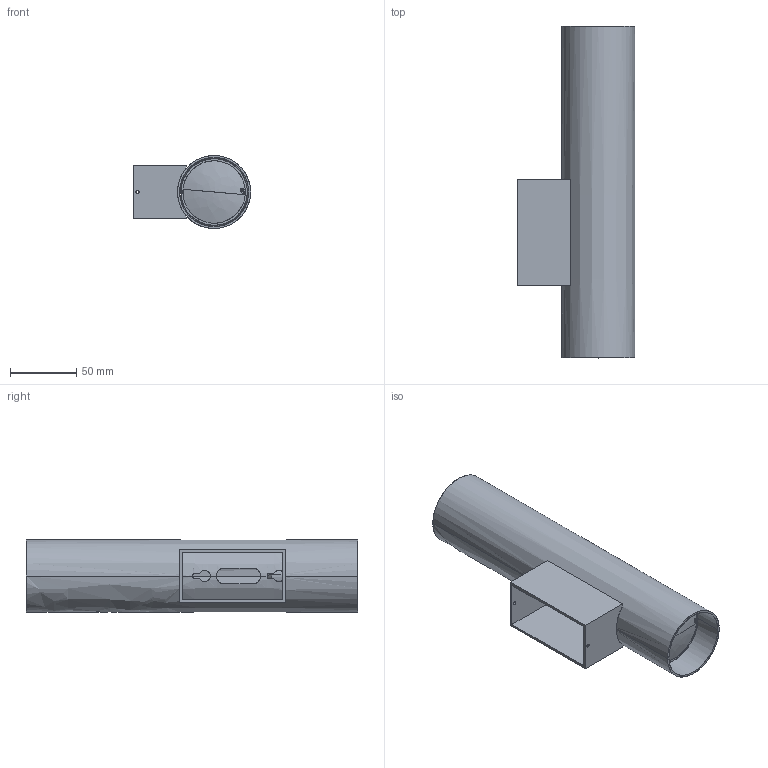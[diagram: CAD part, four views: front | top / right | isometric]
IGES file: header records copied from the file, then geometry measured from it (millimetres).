
Start section: SolidWorks IGES file using analytic representation for surfaces
Global section: file name: Z:\Modele 3D_WWW\_KOLEKCJE_WWW\EYE-WALL-II-8073-8072-8074\EYE-WALL-II-8073-8072-8074.IGS; native system: SolidWorks 2020; preprocessor: SolidWorks 2020; author: gabriela.tworek; date: 210316.215754; units: millimetre
Bounding box: 88.29 x 250 x 55 mm (x, y, z)
Surface area: 117667.1 mm2 (no closed solid volume)
Topology: 0 solids, 0 shells, 153 faces, 3060 edges, 3056 vertices
Faces by surface type: bspline 99, revolution 54
